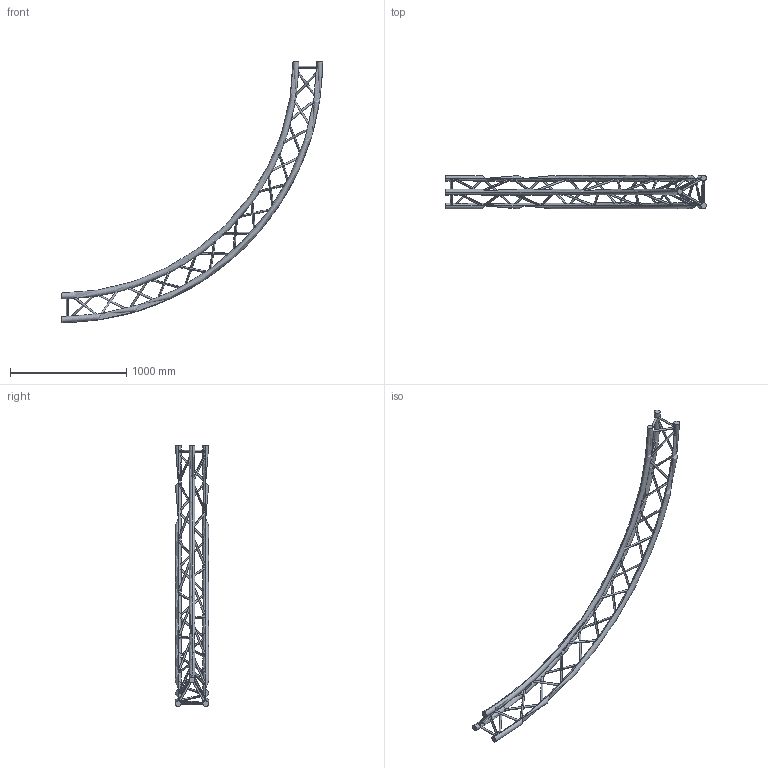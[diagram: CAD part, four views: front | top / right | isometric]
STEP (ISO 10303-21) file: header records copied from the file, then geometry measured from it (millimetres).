
FILE_DESCRIPTION (( 'STEP AP203' ), '1' );
FILE_NAME ('SXC29450PI.STEP', '2009-10-21T08:59:43', ( 'CEDIA' ), ( 'CEDIA INDUSTRIE' ), 'SwSTEP 2.0', 'SolidWorks 2009', '' );
FILE_SCHEMA (( 'CONFIG_CONTROL_DESIGN' ));
Length unit declared in the file: millimetre
Products named in the file (1): SXC29450PI
Bounding box: 2250 x 287 x 2250 mm (x, y, z)
Volume: 22271976.1 mm3; surface area: 2165870.8 mm2
Topology: 1 solids, 1 shells, 102 faces, 288 edges, 192 vertices
Faces by surface type: cylinder 90, torus 6, plane 6
Entity records: 11482 total; most frequent: CARTESIAN_POINT 8926, ORIENTED_EDGE 576, DIRECTION 332, EDGE_CURVE 288, EDGE_LOOP 192, VERTEX_POINT 192, B_SPLINE_CURVE_WITH_KNOTS 180, AXIS2_PLACEMENT_3D 121
